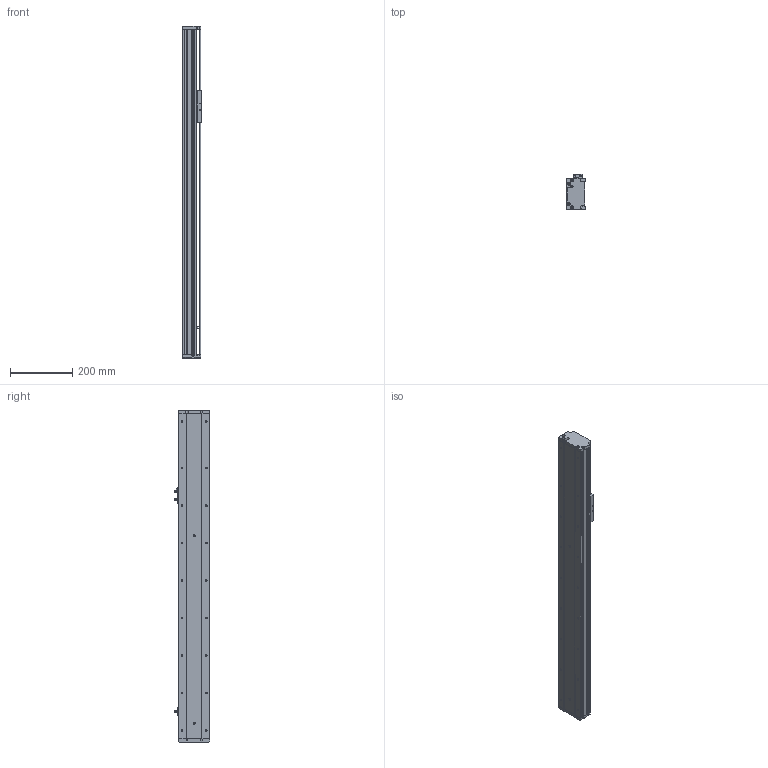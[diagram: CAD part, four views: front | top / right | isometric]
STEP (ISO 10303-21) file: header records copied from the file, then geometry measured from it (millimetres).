
FILE_DESCRIPTION (( 'STEP AP214' ), '1' );
FILE_NAME ('KSD100S-S700-M-CM.STEP', '2019-08-29T09:24:50', ( '微软用户' ), ( '微软中国' ), 'SwSTEP 2.0', 'SolidWorks 2014', '' );
FILE_SCHEMA (( 'AUTOMOTIVE_DESIGN' ));
Length unit declared in the file: millimetre
Products named in the file (8): KSD100S-S700-M-CM; 覜茼え100遵圉猾敕; U倰嫖萇EEㄜSX672; 100宽防尘板丝杆700行程电机内装; 100宽马达安装板-电机内装; 100宽滚珠螺姆安装板半封闭; 100遵傷啣; 100宽底板半封闭丝杆700行程电机内装
Assembly tree (9 placements, depth 2):
  KSD100S-S700-M-CM
    100宽底板半封闭丝杆700行程电机内装
    100遵傷啣
    100宽滚珠螺姆安装板半封闭
    100宽马达安装板-电机内装
    100宽防尘板丝杆700行程电机内装
    U倰嫖萇EEㄜSX672  x3
    覜茼え100遵圉猾敕
Bounding box: 60 x 113.7 x 1063 mm (x, y, z)
Volume: 2041681.4 mm3; surface area: 740803.2 mm2
Topology: 9 solids, 9 shells, 1089 faces, 3104 edges, 1953 vertices
Faces by surface type: cylinder 512, plane 448, cone 129
Entity records: 38018 total; most frequent: CARTESIAN_POINT 7920, DIRECTION 4937, ORIENTED_EDGE 4852, EDGE_CURVE 2426, AXIS2_PLACEMENT_3D 1774, VERTEX_POINT 1577, VECTOR 1389, LINE 1389
